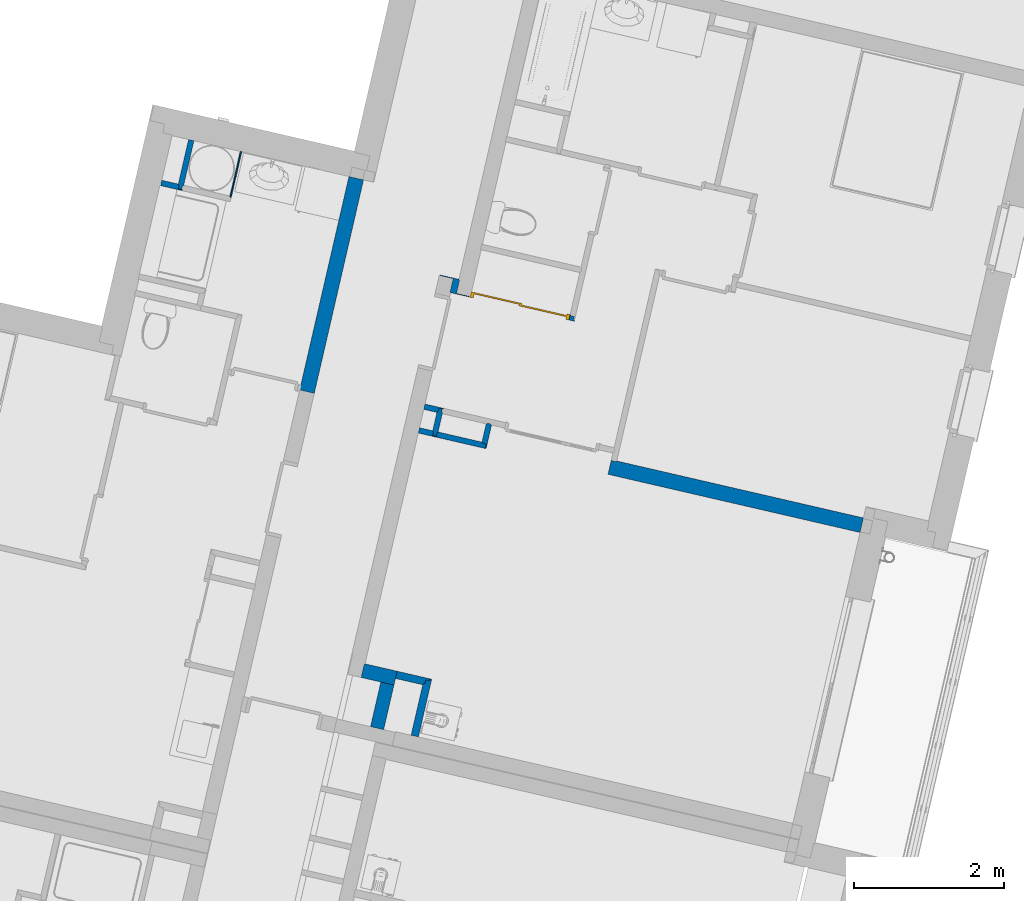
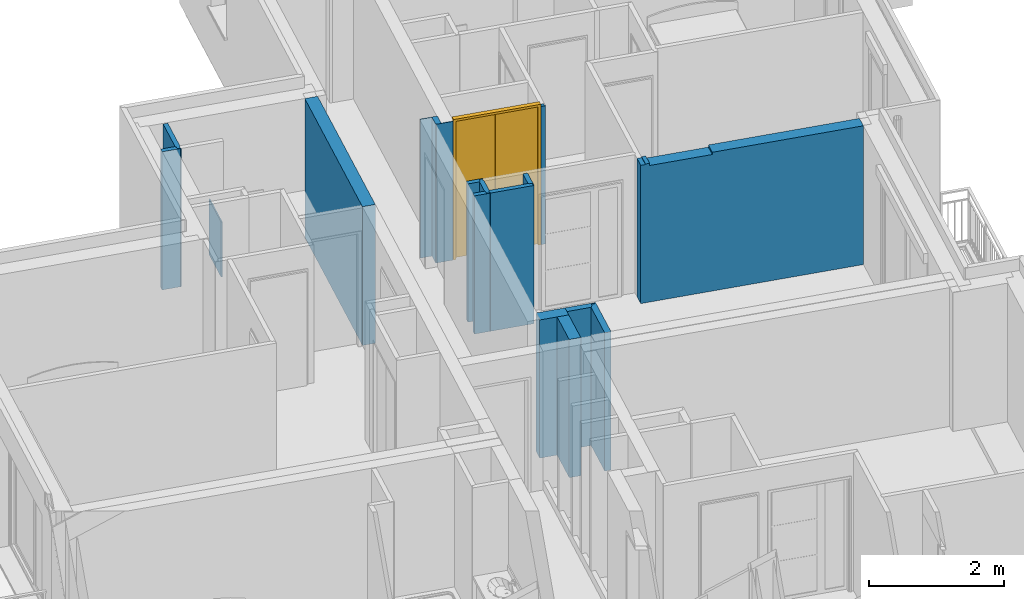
# One storey, part 52 of 90: 16 walls, 1 door, 1 opening.
"""IFC2X3 building model written with IfcOpenShell, lengths in metres."""

from ifc_helpers import new_model, entity, si_unit, converted_unit, derived_unit, money_unit, direction, frame, origin_with_axes, place, context, subcontext, project, spatial, faceted_brep, material, material_list, type_object, element, fill, save


model = new_model("IFC2X3")

# Units and contexts
model_context = context("Model", 3, precision=1e-05, world=origin_with_axes(), true_north=direction((0.0, 1.0)))
body_context = subcontext(model_context, "Body", "Model", "MODEL_VIEW")
ifc_project = project(units=[si_unit("LENGTHUNIT", "METRE"), si_unit("AREAUNIT", "SQUARE_METRE"), si_unit("VOLUMEUNIT", "CUBIC_METRE"), converted_unit("PLANEANGLEUNIT", "DEGREE", entity("IfcPlaneAngleMeasure", 0.0174532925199), si_unit("PLANEANGLEUNIT", "RADIAN"), dimensions=[0, 0, 0, 0, 0, 0, 0]), si_unit("SOLIDANGLEUNIT", "STERADIAN"), money_unit("EUR"), converted_unit("TIMEUNIT", "Year", entity("IfcTimeMeasure", 31556926.0), si_unit("TIMEUNIT", "SECOND"), dimensions=[0, 0, 1, 0, 0, 0, 0]), si_unit("MASSUNIT", "GRAM", prefix="KILO"), si_unit("THERMODYNAMICTEMPERATUREUNIT", "DEGREE_CELSIUS"), si_unit("LUMINOUSINTENSITYUNIT", "LUMEN"), si_unit("ENERGYUNIT", "JOULE", prefix="MEGA"), derived_unit("THERMALCONDUCTANCEUNIT", [(si_unit("POWERUNIT", "WATT"), 1), (si_unit("LENGTHUNIT", "METRE"), -1), (si_unit("THERMODYNAMICTEMPERATUREUNIT", "KELVIN"), -1)]), derived_unit("SPECIFICHEATCAPACITYUNIT", [(si_unit("ENERGYUNIT", "JOULE"), 1), (si_unit("MASSUNIT", "GRAM", prefix="KILO"), -1), (si_unit("THERMODYNAMICTEMPERATUREUNIT", "KELVIN"), -1)]), derived_unit("MASSDENSITYUNIT", [(si_unit("MASSUNIT", "GRAM", prefix="KILO"), 1), (si_unit("VOLUMEUNIT", "CUBIC_METRE"), -1)])], contexts=[model_context])

# Site, building, storey
site_placement = place(None, origin_with_axes())
site = spatial("IfcSite", under=ifc_project, at=site_placement, Name="Site", CompositionType="ELEMENT")
building_placement = place(site_placement, origin_with_axes())
building = spatial("IfcBuilding", under=site, at=building_placement, Name="Bâtiment", CompositionType="ELEMENT")
storey_placement = place(building_placement, frame((0.0, 0.0, 2.72), z_axis=(0.0, 0.0, 1.0), x_axis=(1.0, 0.0, 0.0)))
storey = spatial("IfcBuildingStorey", under=building, at=storey_placement, Name="R+1", CompositionType="ELEMENT", Elevation=2.72)

# Walls
ifc_material_1 = material(Name="Finition int - Plaque de plâtre")
ifc_material_2 = material(Name="Isolation - Laine de roche")
ifc_material_list_1 = material_list([ifc_material_1, ifc_material_2, ifc_material_1])
wall_type_1 = type_object("IfcWallType", Name="3 - Cloison 72mm Placostil 74", PredefinedType="USERDEFINED")
wall_1_placement = place(storey_placement, frame((-6.44100281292, 7.83599391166, 0.0), z_axis=(0.0, 0.0, 1.0), x_axis=(-0.974387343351, 0.224876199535, 0.0)))
element("IfcWall", 1, at=wall_1_placement, inside=storey, type_object=wall_type_1, material=ifc_material_list_1, Name="Cloison Placostil 72/48", ObjectType="PARTITIONING", context=body_context, shape_type="Brep", body=[
    faceted_brep([(0.0, -0.013, 0.0), (0.673999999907, -0.013, 0.0), (0.673999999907, -0.013, 2.5), (0.0, -0.013, 2.5), (0.0, 0.0, 0.0), (0.673999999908, 0.0, 0.0), (0.673999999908, 0.0, 2.5), (0.0, 0.0, 2.5)], [[[0, 1, 2, 3]], [[4, 5, 1, 0]], [[5, 6, 2, 1]], [[3, 2, 6, 7]], [[0, 3, 7, 4]], [[7, 6, 5, 4]]]),
    faceted_brep([(0.012999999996, -0.061, 0.0), (0.686999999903, -0.061, 0.0), (0.686999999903, -0.061, 2.5), (0.012999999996, -0.061, 2.5), (0.0129999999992, -0.013, 0.0), (0.686999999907, -0.013, 0.0), (0.686999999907, -0.013, 2.5), (0.0129999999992, -0.013, 2.5)], [[[0, 1, 2, 3]], [[4, 5, 1, 0]], [[5, 6, 2, 1]], [[3, 2, 6, 7]], [[0, 3, 7, 4]], [[7, 6, 5, 4]]]),
    faceted_brep([(0.0609999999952, -0.074, 0.0), (0.673999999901, -0.074, 0.0), (0.673999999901, -0.074, 2.5), (0.0609999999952, -0.074, 2.5), (0.060999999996, -0.061, 0.0), (0.673999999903, -0.061, 0.0), (0.673999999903, -0.061, 2.5), (0.060999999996, -0.061, 2.5)], [[[0, 1, 2, 3]], [[4, 5, 1, 0]], [[5, 6, 2, 1]], [[3, 2, 6, 7]], [[0, 3, 7, 4]], [[7, 6, 5, 4]]]),
])
wall_2_placement = place(storey_placement, frame((-6.36814292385, 8.15169541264, 0.0), z_axis=(0.0, 0.0, 1.0), x_axis=(-0.224876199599, -0.974387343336, 0.0)))
element("IfcWall", 2, at=wall_2_placement, inside=storey, type_object=wall_type_1, material=ifc_material_list_1, Name="Cloison Placostil 72/48", ObjectType="PARTITIONING", context=body_context, shape_type="Brep", body=[
    faceted_brep([(0.311000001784, -0.013, 2.5), (0.311000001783, 0.0, 2.5), (1.69246483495e-09, 0.0, 2.5), (1.68892100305e-09, -0.013, 2.5), (0.311000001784, -0.013, 0.0), (0.311000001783, 0.0, 0.0), (1.69246483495e-09, 0.0, 0.0), (1.68892100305e-09, -0.013, 0.0)], [[[0, 1, 2, 3]], [[1, 0, 4, 5]], [[1, 5, 6, 2]], [[7, 3, 2, 6]], [[4, 0, 3, 7]], [[5, 4, 7, 6]]]),
    faceted_brep([(0.263000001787, -0.061, 2.5), (0.263000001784, -0.013, 2.5), (-0.0129999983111, -0.013, 2.5), (-0.0129999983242, -0.061, 2.5), (0.263000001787, -0.061, 0.0), (0.263000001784, -0.013, 0.0), (-0.0129999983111, -0.013, 0.0), (-0.0129999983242, -0.061, 0.0)], [[[0, 1, 2, 3]], [[1, 0, 4, 5]], [[1, 5, 6, 2]], [[7, 3, 2, 6]], [[4, 0, 3, 7]], [[5, 4, 7, 6]]]),
    faceted_brep([(0.250000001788, -0.074, 2.5), (0.250000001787, -0.061, 2.5), (1.67583813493e-09, -0.061, 2.5), (1.67229607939e-09, -0.074, 2.5), (0.250000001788, -0.074, 0.0), (0.250000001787, -0.061, 0.0), (1.67583813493e-09, -0.061, 0.0), (1.67229607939e-09, -0.074, 0.0)], [[[0, 1, 2, 3]], [[1, 0, 4, 5]], [[1, 5, 6, 2]], [[7, 3, 2, 6]], [[4, 0, 3, 7]], [[5, 4, 7, 6]]]),
])

# Wall, opening, door
wall_3_placement = place(storey_placement, frame((-6.65298020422, 9.85626030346, 0.0), z_axis=(0.0, 0.0, 1.0), x_axis=(0.97438734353, -0.224876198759, 0.0)))
wall_3 = element("IfcWall", 3, at=wall_3_placement, inside=storey, type_object=wall_type_1, material=ifc_material_list_1, Name="Cloison Placostil 72/48", ObjectType="PARTITIONING", context=body_context, shape_type="Brep", body=[
    faceted_brep([(1.34999999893, 0.074, 0.0), (1.34999999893, 0.074, 2.5), (1.36299999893, 0.074, 2.5), (1.36299999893, 0.074, 0.0), (1.34999999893, 0.061, 2.5), (1.34999999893, 0.061, 0.0), (1.36299999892, 0.061, 2.5), (1.36299999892, 0.061, 0.0)], [[[0, 1, 2, 3]], [[4, 1, 0, 5]], [[1, 4, 6, 2]], [[3, 2, 6, 7]], [[5, 0, 3, 7]], [[4, 5, 7, 6]]]),
    faceted_brep([(1.34999999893, 0.061, 0.0), (1.34999999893, 0.061, 2.5), (1.41099999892, 0.061, 2.5), (1.41099999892, 0.061, 0.0), (1.34999999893, 0.013, 2.5), (1.34999999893, 0.013, 0.0), (1.41099999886, 0.013, 2.5), (1.41099999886, 0.013, 0.0)], [[[0, 1, 2, 3]], [[4, 1, 0, 5]], [[1, 4, 6, 2]], [[3, 2, 6, 7]], [[5, 0, 3, 7]], [[4, 5, 7, 6]]]),
    faceted_brep([(1.34999999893, 0.013, 0.0), (1.34999999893, 0.013, 2.5), (1.42399999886, 0.013, 2.5), (1.42399999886, 0.013, 0.0), (1.34999999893, 0.0, 2.5), (1.34999999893, 0.0, 0.0), (1.42399999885, 0.0, 2.5), (1.42399999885, 0.0, 0.0)], [[[0, 1, 2, 3]], [[4, 1, 0, 5]], [[1, 4, 6, 2]], [[3, 2, 6, 7]], [[5, 0, 3, 7]], [[4, 5, 7, 6]]]),
])
opening_placement = place(wall_3_placement, frame((0.674999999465, 0.0, 0.0), z_axis=(0.0, 0.0, 1.0), x_axis=(1.0, 0.0, 0.0)))
opening = element("IfcOpeningElement", 4, at=opening_placement, cuts=wall_3, Name="Por-002", context=body_context, shape_type="Brep", body=[
    faceted_brep([(-0.674999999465, 0.074, 0.0), (0.674999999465, 0.074, 0.0), (0.674999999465, -0.074, 0.0), (-0.674999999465, -0.074, 0.0), (-0.674999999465, 0.074, 2.54), (0.674999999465, 0.074, 2.54), (0.674999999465, -0.074, 2.54), (-0.674999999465, -0.074, 2.54)], [[[0, 1, 2, 3]], [[0, 4, 5, 1]], [[1, 5, 6, 2]], [[3, 2, 6, 7]], [[4, 0, 3, 7]], [[5, 4, 7, 6]]]),
])
door_style = type_object("IfcDoorStyle", Name="Porte int générique 2019", ConstructionType="NOTDEFINED", OperationType="USERDEFINED", ParameterTakesPrecedence=False, Sizeable=False)
door_placement = place(opening_placement, frame((-0.634999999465, 0.0, 0.0), z_axis=(0.0, 0.0, 1.0), x_axis=(1.0, 0.0, 0.0)))
door = element("IfcDoor", 5, at=door_placement, inside=storey, type_object=door_style, Name="Por-002", ObjectType="DOOR", OverallHeight=2.5, OverallWidth=1.27, context=body_context, shape_type="Brep", body=[
    faceted_brep([(-0.04, 0.074, 0.0), (-0.04, 0.074, 2.54), (1.30999999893, 0.074, 2.54), (1.30999999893, 0.074, 0.0), (1.26999999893, 0.074, 0.0), (1.26999999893, 0.074, 2.5), (0.0, 0.074, 2.5), (0.0, 0.074, 0.0), (-0.04, 0.0, 0.0), (-0.04, 0.0, 2.54), (1.30999999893, 0.0, 2.54), (1.30999999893, 0.0, 0.0), (1.26999999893, 0.0, 0.0), (1.26999999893, 0.0, 2.5), (0.0, 0.0, 2.5), (0.0, 0.0, 0.0)], [[[0, 1, 2, 3, 4, 5, 6, 7]], [[8, 9, 1, 0]], [[9, 10, 2, 1]], [[10, 11, 3, 2]], [[3, 11, 12, 4]], [[5, 4, 12, 13]], [[6, 5, 13, 14]], [[7, 6, 14, 15]], [[0, 7, 15, 8]], [[15, 14, 13, 12, 11, 10, 9, 8]]]),
    faceted_brep([(0.0, 0.074, 0.0), (0.649999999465, 0.074, 0.0), (0.649999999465, 0.054, 0.0), (0.0, 0.054, 0.0), (0.0, 0.074, 2.5), (0.649999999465, 0.074, 2.5), (0.649999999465, 0.054, 2.5), (0.0, 0.054, 2.5)], [[[0, 1, 2, 3]], [[0, 4, 5, 1]], [[1, 5, 6, 2]], [[3, 2, 6, 7]], [[4, 0, 3, 7]], [[5, 4, 7, 6]]]),
    faceted_brep([(0.619999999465, 0.054, 0.0), (1.26999999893, 0.054, 0.0), (1.26999999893, 0.034, 0.0), (0.619999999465, 0.034, 0.0), (0.619999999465, 0.054, 2.5), (1.26999999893, 0.054, 2.5), (1.26999999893, 0.034, 2.5), (0.619999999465, 0.034, 2.5)], [[[0, 1, 2, 3]], [[0, 4, 5, 1]], [[1, 5, 6, 2]], [[3, 2, 6, 7]], [[4, 0, 3, 7]], [[5, 4, 7, 6]]]),
])
fill(opening, door)

# Walls
ifc_material_3 = material(Name="Finition int - Enduit plâtre")
ifc_material_4 = material(Name="Béton")
ifc_material_list_2 = material_list([ifc_material_3, ifc_material_4, ifc_material_3])
wall_type_2 = type_object("IfcWallType", Name="2 - Murs Béton 18 + Enduit 2 Faces 200", PredefinedType="USERDEFINED")
wall_4_placement = place(storey_placement, frame((-4.7413895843, 7.487875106, 0.0), z_axis=(0.0, 0.0, 1.0), x_axis=(0.974387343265, -0.224876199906, 0.0)))
element("IfcWall", 6, at=wall_4_placement, inside=storey, type_object=wall_type_2, material=ifc_material_list_2, Name="M_Ext-008", ObjectType="SOLIDWALL", context=body_context, shape_type="Brep", body=[
    faceted_brep([(0.0641161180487, 0.189999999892, 2.47), (1.03472502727, 0.189999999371, 2.47), (1.03472502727, 0.189999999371, 2.51), (3.3761913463, 0.19, 2.51), (3.3761913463, 0.19, 0.0), (-1.15635501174e-10, 0.19, 0.0), (-1.15635501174e-10, 0.19, 2.5), (0.0, 0.19, 2.51), (0.0641161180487, 0.189999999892, 2.51), (0.0641161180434, 0.18, 2.47), (1.03472502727, 0.18, 2.47), (1.03472502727, 0.18, 2.51), (3.3761913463, 0.18, 2.51), (3.3761913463, 0.18, 0.0), (-1.09549702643e-10, 0.18, 0.0), (-1.09549702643e-10, 0.18, 2.5), (0.0, 0.18, 2.51), (0.0641161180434, 0.18, 2.51)], [[[0, 1, 2, 3, 4, 5, 6, 7, 8]], [[1, 0, 9, 10]], [[11, 2, 1, 10]], [[2, 11, 12, 3]], [[4, 3, 12, 13]], [[4, 13, 14, 5]], [[5, 14, 15, 6]], [[16, 7, 6, 15]], [[17, 8, 7, 16]], [[0, 8, 17, 9]], [[9, 17, 16, 15, 14, 13, 12, 11, 10]]]),
    faceted_brep([(0.0641161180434, 0.18, 2.47), (1.03472502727, 0.18, 2.47), (1.03472502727, 0.18, 2.51), (3.3761913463, 0.18, 2.51), (3.3761913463, 0.18, 0.0), (-0.0739999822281, 0.18, 0.0), (-0.0739999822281, 0.18, 2.5), (0.0, 0.18, 2.5), (0.0, 0.18, 2.51), (0.0641161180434, 0.18, 2.51), (0.0641161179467, 0.0, 2.47), (1.03472502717, 0.0, 2.47), (1.03472502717, 0.0, 2.51), (3.3761913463, 0.0, 2.51), (3.3761913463, 0.0, 0.0), (-0.0739999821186, 0.0, 0.0), (-0.0739999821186, 0.0, 2.5), (0.0, 0.0, 2.5), (0.0, 0.0, 2.51), (0.0641161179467, 0.0, 2.51)], [[[0, 1, 2, 3, 4, 5, 6, 7, 8, 9]], [[1, 0, 10, 11]], [[12, 2, 1, 11]], [[2, 12, 13, 3]], [[3, 13, 14, 4]], [[4, 14, 15, 5]], [[5, 15, 16, 6]], [[17, 7, 6, 16]], [[7, 17, 18, 8]], [[19, 9, 8, 18]], [[0, 9, 19, 10]], [[10, 19, 18, 17, 16, 15, 14, 13, 12, 11]]]),
    faceted_brep([(0.0641161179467, 0.0, 2.47), (1.03472502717, 0.0, 2.47), (1.03472502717, 0.0, 2.51), (3.3761913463, 0.0, 2.51), (3.3761913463, 0.0, 0.0), (-0.0739999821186, 0.0, 0.0), (-0.0739999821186, 0.0, 2.5), (0.0, 0.0, 2.5), (0.0, 0.0, 2.51), (0.0641161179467, 0.0, 2.51), (0.0641161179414, -0.0100000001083, 2.47), (1.03472502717, -0.0100000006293, 2.47), (1.03472502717, -0.0100000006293, 2.51), (3.3761913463, -0.01, 2.51), (3.3761913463, -0.01, 0.0), (-0.0739999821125, -0.01, 0.0), (-0.0739999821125, -0.01, 2.5), (0.0, -0.01, 2.5), (0.0, -0.01, 2.51), (0.0641161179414, -0.0100000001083, 2.51)], [[[0, 1, 2, 3, 4, 5, 6, 7, 8, 9]], [[1, 0, 10, 11]], [[12, 2, 1, 11]], [[2, 12, 13, 3]], [[3, 13, 14, 4]], [[4, 14, 15, 5]], [[5, 15, 16, 6]], [[17, 7, 6, 16]], [[7, 17, 18, 8]], [[19, 9, 8, 18]], [[0, 9, 19, 10]], [[10, 19, 18, 17, 16, 15, 14, 13, 12, 11]]]),
])
wall_5_placement = place(storey_placement, frame((-8.26065722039, 11.464555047, 0.0), z_axis=(0.0, 0.0, 1.0), x_axis=(-0.224876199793, -0.974387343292, 0.0)))
element("IfcWall", 7, at=wall_5_placement, inside=storey, type_object=wall_type_2, material=ifc_material_list_2, Name="M_Ext-009", ObjectType="SOLIDWALL", context=body_context, shape_type="Brep", body=[
    faceted_brep([(0.0, 0.19, 0.0), (2.92159790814, 0.19, 0.0), (2.92159790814, 0.18, 0.0), (0.0, 0.18, 0.0), (0.0, 0.19, 2.51), (2.92159790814, 0.19, 2.51), (2.92159790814, 0.18, 2.51), (0.0, 0.18, 2.51)], [[[0, 1, 2, 3]], [[4, 5, 1, 0]], [[2, 1, 5, 6]], [[3, 2, 6, 7]], [[4, 0, 3, 7]], [[7, 6, 5, 4]]]),
    faceted_brep([(0.0, 0.18, 0.0), (2.92159790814, 0.18, 0.0), (2.92159790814, 0.0, 0.0), (0.0, 0.0, 0.0), (0.0, 0.18, 2.51), (2.92159790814, 0.18, 2.51), (2.92159790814, 0.0, 2.51), (0.0, 0.0, 2.51)], [[[0, 1, 2, 3]], [[4, 5, 1, 0]], [[2, 1, 5, 6]], [[3, 2, 6, 7]], [[4, 0, 3, 7]], [[7, 6, 5, 4]]]),
    faceted_brep([(0.0, 0.0, 0.0), (2.92159790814, 0.0, 0.0), (2.92159790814, -0.01, 0.0), (0.0, -0.01, 0.0), (0.0, 0.0, 2.51), (2.92159790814, 0.0, 2.51), (2.92159790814, -0.01, 2.51), (0.0, -0.01, 2.51)], [[[0, 1, 2, 3]], [[4, 5, 1, 0]], [[2, 1, 5, 6]], [[3, 2, 6, 7]], [[4, 0, 3, 7]], [[7, 6, 5, 4]]]),
])
wall_6_placement = place(storey_placement, frame((-6.80288243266, 10.0961130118, 0.0), z_axis=(0.0, 0.0, 1.0), x_axis=(-0.974387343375, 0.22487619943, 0.0)))
element("IfcWall", 8, at=wall_6_placement, inside=storey, type_object=wall_type_2, material=ifc_material_list_2, Name="M_Ext-008", ObjectType="SOLIDWALL", context=body_context, shape_type="Brep", body=[
    faceted_brep([(0.0677768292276, 0.19, 2.51), (-0.190142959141, 0.19, 2.51), (-0.190142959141, 0.19, 0.0), (0.0677768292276, 0.19, 0.0), (-0.190150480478, 0.2, 2.51), (0.0677768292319, 0.2, 2.51), (-0.190150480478, 0.2, 0.0), (0.0677768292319, 0.2, 0.0)], [[[0, 1, 2, 3]], [[4, 1, 0, 5]], [[1, 4, 6, 2]], [[6, 7, 3, 2]], [[5, 0, 3, 7]], [[4, 5, 7, 6]]]),
    faceted_brep([(0.0777768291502, 0.01, 2.51), (-0.0100075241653, 0.01, 2.51), (-0.0100075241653, 0.01, 0.0), (0.0777768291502, 0.01, 0.0), (-0.0101429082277, 0.19, 2.51), (0.0777768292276, 0.19, 2.51), (-0.0101429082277, 0.19, 0.0), (0.0777768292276, 0.19, 0.0)], [[[0, 1, 2, 3]], [[4, 1, 0, 5]], [[1, 4, 6, 2]], [[6, 7, 3, 2]], [[5, 0, 3, 7]], [[4, 5, 7, 6]]]),
    faceted_brep([(0.257776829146, 0.0, 2.51), (0.0, 0.0, 2.51), (0.0, 0.0, 0.0), (0.257776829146, 0.0, 0.0), (-7.52133679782e-06, 0.01, 2.51), (0.25777682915, 0.01, 2.51), (-7.52133679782e-06, 0.01, 0.0), (0.25777682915, 0.01, 0.0)], [[[0, 1, 2, 3]], [[4, 1, 0, 5]], [[1, 4, 6, 2]], [[6, 7, 3, 2]], [[5, 0, 3, 7]], [[4, 5, 7, 6]]]),
])
wall_type_3 = type_object("IfcWallType", Name="3 - Cloison Gaine Technique 72mm 74", PredefinedType="USERDEFINED")
wall_7_placement = place(storey_placement, frame((-7.02487999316, 8.30326197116, 0.0), z_axis=(0.0, 0.0, 1.0), x_axis=(-0.224876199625, -0.97438734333, 0.0)))
element("IfcWall", 9, at=wall_7_placement, inside=storey, type_object=wall_type_3, material=ifc_material_list_1, Name="Cloison Placostil 72/48", ObjectType="PARTITIONING", context=body_context, shape_type="Brep", body=[
    faceted_brep([(0.324000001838, 0.0, 0.0), (0.311000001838, 0.0, 0.0), (0.311000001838, 0.0, 2.5), (0.324000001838, 0.0, 2.5), (0.324000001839, -0.013, 0.0), (0.311000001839, -0.013, 0.0), (0.311000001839, -0.013, 2.5), (0.324000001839, -0.013, 2.5)], [[[0, 1, 2, 3]], [[4, 5, 1, 0]], [[5, 6, 2, 1]], [[3, 2, 6, 7]], [[0, 3, 7, 4]], [[7, 6, 5, 4]]]),
    faceted_brep([(0.263000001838, 0.0, 0.0), (-0.0129999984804, 0.0, 0.0), (-0.0129999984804, 0.0, 2.5), (0.263000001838, 0.0, 2.5), (0.263000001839, -0.013, 0.0), (-0.0129999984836, -0.013, 0.0), (-0.0129999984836, -0.013, 2.5), (0.263000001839, -0.013, 2.5)], [[[0, 1, 2, 3]], [[4, 5, 1, 0]], [[5, 6, 2, 1]], [[3, 2, 6, 7]], [[4, 0, 3, 7]], [[7, 6, 5, 4]]]),
    faceted_brep([(-0.0739999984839, -0.013, 2.5), (-0.0609999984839, -0.013, 2.5), (-0.0609999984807, 0.0, 2.5), (-0.0739999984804, 0.0, 2.5), (-0.0739999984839, -0.013, 0.0), (-0.0609999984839, -0.013, 0.0), (-0.0609999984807, 0.0, 0.0), (-0.0739999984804, 0.0, 0.0)], [[[0, 1, 2, 3]], [[4, 5, 1, 0]], [[5, 6, 2, 1]], [[3, 2, 6, 7]], [[7, 4, 0, 3]], [[7, 6, 5, 4]]]),
    faceted_brep([(-0.0609999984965, -0.061, 2.5), (0.311000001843, -0.061, 2.5), (0.311000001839, -0.013, 2.5), (-0.0609999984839, -0.013, 2.5), (-0.0609999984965, -0.061, 0.0), (0.311000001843, -0.061, 0.0), (0.311000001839, -0.013, 0.0), (-0.0609999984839, -0.013, 0.0)], [[[0, 1, 2, 3]], [[4, 5, 1, 0]], [[6, 2, 1, 5]], [[3, 2, 6, 7]], [[7, 4, 0, 3]], [[7, 6, 5, 4]]]),
    faceted_brep([(-0.0129999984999, -0.074, 2.5), (0.263000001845, -0.074, 2.5), (0.263000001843, -0.061, 2.5), (-0.0129999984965, -0.061, 2.5), (-0.0129999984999, -0.074, 0.0), (0.263000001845, -0.074, 0.0), (0.263000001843, -0.061, 0.0), (-0.0129999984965, -0.061, 0.0)], [[[0, 1, 2, 3]], [[4, 5, 1, 0]], [[6, 2, 1, 5]], [[3, 2, 6, 7]], [[7, 4, 0, 3]], [[7, 6, 5, 4]]]),
])
wall_8_placement = place(storey_placement, frame((-7.27299286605, 8.36052326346, 0.0), z_axis=(0.0, 0.0, 1.0), x_axis=(0.974387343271, -0.224876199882, 0.0)))
element("IfcWall", 10, at=wall_8_placement, inside=storey, type_object=wall_type_3, material=ifc_material_list_1, Name="Cloison Placostil 72/48", ObjectType="PARTITIONING", context=body_context, shape_type="Brep", body=[
    faceted_brep([(0.0, 0.074, 0.0), (0.241634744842, 0.074, 0.0), (0.241634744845, 0.061, 0.0), (0.0, 0.061, 0.0), (0.0, 0.074, 2.5), (0.241634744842, 0.074, 2.5), (0.241634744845, 0.061, 2.5), (0.0, 0.061, 2.5)], [[[0, 1, 2, 3]], [[4, 5, 1, 0]], [[6, 2, 1, 5]], [[3, 2, 6, 7]], [[7, 4, 0, 3]], [[7, 6, 5, 4]]]),
    faceted_brep([(0.193634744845, 0.061, 0.0), (0.193634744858, 0.013, 0.0), (0.0, 0.013, 0.0), (0.0, 0.061, 0.0), (0.193634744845, 0.061, 2.5), (0.193634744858, 0.013, 2.5), (0.0, 0.013, 2.5), (0.0, 0.061, 2.5)], [[[0, 1, 2, 3]], [[1, 0, 4, 5]], [[1, 5, 6, 2]], [[7, 3, 2, 6]], [[4, 0, 3, 7]], [[5, 4, 7, 6]]]),
    faceted_brep([(0.180634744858, 0.013, 0.0), (0.180634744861, 0.0, 0.0), (0.0, 0.0, 0.0), (0.0, 0.013, 0.0), (0.180634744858, 0.013, 2.5), (0.180634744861, 0.0, 2.5), (0.0, 0.0, 2.5), (0.0, 0.013, 2.5)], [[[0, 1, 2, 3]], [[1, 0, 4, 5]], [[1, 5, 6, 2]], [[7, 3, 2, 6]], [[4, 0, 3, 7]], [[5, 4, 7, 6]]]),
])
wall_9_placement = place(storey_placement, frame((-7.09773988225, 7.98756047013, 0.0), z_axis=(0.0, 0.0, 1.0), x_axis=(-0.974387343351, 0.224876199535, 0.0)))
element("IfcWall", 11, at=wall_9_placement, inside=storey, type_object=wall_type_3, material=ifc_material_list_1, Name="Cloison Placostil 72/48", ObjectType="PARTITIONING", context=body_context, shape_type="Brep", body=[
    faceted_brep([(0.013, 0.0, 2.5), (0.0129999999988, -0.013, 2.5), (0.254634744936, -0.013, 2.5), (0.254634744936, 0.0, 2.5), (0.013, 0.0, 0.0), (0.0129999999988, -0.013, 0.0), (0.254634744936, -0.013, 0.0), (0.254634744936, 0.0, 0.0)], [[[0, 1, 2, 3]], [[4, 5, 1, 0]], [[1, 5, 6, 2]], [[7, 3, 2, 6]], [[4, 0, 3, 7]], [[5, 4, 7, 6]]]),
    faceted_brep([(0.0609999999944, -0.061, 2.5), (0.254634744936, -0.061, 2.5), (0.254634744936, -0.013, 2.5), (0.0609999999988, -0.013, 2.5), (0.0609999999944, -0.061, 0.0), (0.254634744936, -0.061, 0.0), (0.254634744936, -0.013, 0.0), (0.0609999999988, -0.013, 0.0)], [[[0, 1, 2, 3]], [[4, 5, 1, 0]], [[2, 1, 5, 6]], [[3, 2, 6, 7]], [[4, 0, 3, 7]], [[7, 6, 5, 4]]]),
    faceted_brep([(0.0739999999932, -0.074, 2.5), (0.254634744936, -0.074, 2.5), (0.254634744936, -0.061, 2.5), (0.0739999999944, -0.061, 2.5), (0.0739999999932, -0.074, 0.0), (0.254634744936, -0.074, 0.0), (0.254634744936, -0.061, 0.0), (0.0739999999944, -0.061, 0.0)], [[[0, 1, 2, 3]], [[4, 5, 1, 0]], [[2, 1, 5, 6]], [[3, 2, 6, 7]], [[4, 0, 3, 7]], [[7, 6, 5, 4]]]),
])
wall_10_placement = place(storey_placement, frame((-10.4911943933, 11.2773550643, 0.0), z_axis=(0.0, 0.0, 1.0), x_axis=(-0.974387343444, 0.224876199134, 0.0)))
element("IfcWall", 12, at=wall_10_placement, inside=storey, type_object=wall_type_3, material=ifc_material_list_1, Name="Cloison Placostil 72/48", ObjectType="PARTITIONING", context=body_context, shape_type="Brep", body=[
    faceted_brep([(0.013, 0.0, 2.5), (0.0129999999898, -0.013, 2.5), (0.299000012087, -0.013, 2.5), (0.299000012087, 0.0, 2.5), (0.013, 0.0, 0.0), (0.0129999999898, -0.013, 0.0), (0.299000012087, -0.013, 0.0), (0.299000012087, 0.0, 0.0)], [[[0, 1, 2, 3]], [[4, 5, 1, 0]], [[1, 5, 6, 2]], [[7, 3, 2, 6]], [[4, 0, 3, 7]], [[5, 4, 7, 6]]]),
    faceted_brep([(0.0609999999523, -0.061, 2.5), (0.299000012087, -0.061, 2.5), (0.299000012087, -0.013, 2.5), (0.0609999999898, -0.013, 2.5), (0.0609999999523, -0.061, 0.0), (0.299000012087, -0.061, 0.0), (0.299000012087, -0.013, 0.0), (0.0609999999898, -0.013, 0.0)], [[[0, 1, 2, 3]], [[4, 5, 1, 0]], [[2, 1, 5, 6]], [[3, 2, 6, 7]], [[4, 0, 3, 7]], [[7, 6, 5, 4]]]),
    faceted_brep([(0.0739999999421, -0.074, 2.5), (0.299000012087, -0.074, 2.5), (0.299000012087, -0.061, 2.5), (0.0739999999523, -0.061, 2.5), (0.0739999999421, -0.074, 0.0), (0.299000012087, -0.074, 0.0), (0.299000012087, -0.061, 0.0), (0.0739999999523, -0.061, 0.0)], [[[0, 1, 2, 3]], [[4, 5, 1, 0]], [[2, 1, 5, 6]], [[3, 2, 6, 7]], [[4, 0, 3, 7]], [[7, 6, 5, 4]]]),
])
wall_11_placement = place(storey_placement, frame((-10.3373790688, 11.9438360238, 0.0), z_axis=(0.0, 0.0, 1.0), x_axis=(-0.224876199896, -0.974387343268, 0.0)))
element("IfcWall", 13, at=wall_11_placement, inside=storey, type_object=wall_type_3, material=ifc_material_list_1, Name="Cloison Placostil 72/48", ObjectType="PARTITIONING", context=body_context, shape_type="Brep", body=[
    faceted_brep([(0.684000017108, 0.0, 0.0), (0.671000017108, 0.0, 0.0), (0.671000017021, 0.0, 2.5), (0.684000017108, 0.0, 2.5), (0.684000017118, -0.013, 0.0), (0.671000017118, -0.013, 0.0), (0.671000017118, -0.013, 2.5), (0.684000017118, -0.013, 2.5)], [[[0, 1, 2, 3]], [[4, 5, 1, 0]], [[5, 6, 2, 1]], [[3, 2, 6, 7]], [[0, 3, 7, 4]], [[7, 6, 5, 4]]]),
    faceted_brep([(0.0, -0.013, 2.5), (0.623000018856, -0.013, 2.5), (0.623000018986, 0.0, 2.5), (0.0, 0.0, 2.5), (0.0, -0.013, 0.0), (0.623000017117, -0.013, 0.0), (0.623000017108, 0.0, 0.0), (0.0, 0.0, 0.0)], [[[0, 1, 2, 3]], [[4, 5, 1, 0]], [[5, 6, 2, 1]], [[3, 2, 6, 7]], [[7, 4, 0, 3]], [[7, 6, 5, 4]]]),
    faceted_brep([(0.0, -0.061, 2.5), (0.671000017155, -0.061, 2.5), (0.671000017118, -0.013, 2.5), (0.0, -0.013, 2.5), (0.0, -0.061, 0.0), (0.671000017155, -0.061, 0.0), (0.671000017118, -0.013, 0.0), (0.0, -0.013, 0.0)], [[[0, 1, 2, 3]], [[4, 5, 1, 0]], [[6, 2, 1, 5]], [[3, 2, 6, 7]], [[7, 4, 0, 3]], [[7, 6, 5, 4]]]),
    faceted_brep([(0.623000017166, -0.074, 2.5), (0.623000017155, -0.061, 2.5), (0.0, -0.061, 2.5), (0.0, -0.074, 2.5), (0.623000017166, -0.074, 0.0), (0.623000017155, -0.061, 0.0), (0.0, -0.061, 0.0), (0.0, -0.074, 0.0)], [[[0, 1, 2, 3]], [[1, 0, 4, 5]], [[1, 5, 6, 2]], [[7, 3, 2, 6]], [[4, 0, 3, 7]], [[5, 4, 7, 6]]]),
])
ifc_material_list_3 = material_list([ifc_material_4, ifc_material_3])
wall_type_4 = type_object("IfcWallType", Name="2 - Murs Béton 18 + Enduit 1 Face 190", PredefinedType="USERDEFINED")
wall_12_placement = place(storey_placement, frame((-7.6699008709, 4.68409091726, 0.0), z_axis=(0.0, 0.0, 1.0), x_axis=(-0.974387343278, 0.224876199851, 0.0)))
element("IfcWall", 14, at=wall_12_placement, inside=storey, type_object=wall_type_4, material=ifc_material_list_3, Name="M_Ext-008", ObjectType="SOLIDWALL", context=body_context, shape_type="Brep", body=[
    faceted_brep([(0.0, -0.18, 0.0), (0.449999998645, -0.18, 0.0), (0.449999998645, -0.18, 2.5), (0.0, -0.18, 2.5), (0.0, 0.0, 0.0), (0.449999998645, 0.0, 0.0), (0.449999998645, 4.47035386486e-09, 2.5), (0.0, 0.0, 2.5)], [[[0, 1, 2, 3]], [[4, 5, 1, 0]], [[2, 1, 5, 6]], [[3, 2, 6, 7]], [[4, 0, 3, 7]], [[6, 5, 4, 7]]]),
    faceted_brep([(0.0, -0.19, 0.0), (0.439999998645, -0.19, 0.0), (0.439999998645, -0.19, 2.5), (0.0, -0.19, 2.5), (0.0, -0.18, 0.0), (0.439999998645, -0.18, 0.0), (0.439999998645, -0.18, 2.5), (0.0, -0.18, 2.5)], [[[0, 1, 2, 3]], [[4, 5, 1, 0]], [[2, 1, 5, 6]], [[3, 2, 6, 7]], [[4, 0, 3, 7]], [[6, 5, 4, 7]]]),
])
wall_type_5 = type_object("IfcWallType", Name="Béton 180", PredefinedType="USERDEFINED")
wall_13_placement = place(storey_placement, frame((-7.6699008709, 4.68409091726, 0.0), z_axis=(0.0, 0.0, 1.0), x_axis=(-0.224876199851, -0.974387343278, 0.0)))
element("IfcWall", 15, at=wall_13_placement, inside=storey, type_object=wall_type_5, material=ifc_material_4, Name="M_Ext-009", ObjectType="SOLIDWALL", context=body_context, shape_type="Brep", body=[
    faceted_brep([(0.0, 0.0, 2.5), (0.0, -0.18, 2.5), (0.610475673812, -0.18, 2.5), (0.610475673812, 0.0, 2.5), (0.0, 0.0, 0.0), (0.0, -0.18, 0.0), (0.610475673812, -0.18, 0.0), (0.610475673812, 0.0, 0.0)], [[[0, 1, 2, 3]], [[4, 5, 1, 0]], [[1, 5, 6, 2]], [[7, 3, 2, 6]], [[4, 0, 3, 7]], [[5, 4, 7, 6]]]),
])
ifc_material_list_4 = material_list([ifc_material_1, ifc_material_1, ifc_material_2, ifc_material_1, ifc_material_1])
wall_type_6 = type_object("IfcWallType", Name="3 - Cloison Gaine Technique 98mm 100", PredefinedType="USERDEFINED")
wall_14_placement = place(storey_placement, frame((-7.16628917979, 4.76285806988, 0.0), z_axis=(0.0, 0.0, 1.0), x_axis=(-0.224876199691, -0.974387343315, 0.0)))
element("IfcWall", 16, at=wall_14_placement, inside=storey, type_object=wall_type_6, material=ifc_material_list_4, Name="Cloison 98 isolée", ObjectType="PARTITIONING", context=body_context, shape_type="Brep", body=[
    faceted_brep([(0.0, -0.013, 2.5), (0.790475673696, -0.013, 2.5), (0.790475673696, 0.0, 2.5), (0.0, 0.0, 2.5), (0.0, -0.013, 0.0), (0.790475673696, -0.013, 0.0), (0.790475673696, 0.0, 0.0), (0.0, 0.0, 0.0)], [[[0, 1, 2, 3]], [[4, 5, 1, 0]], [[2, 1, 5, 6]], [[3, 2, 6, 7]], [[4, 0, 3, 7]], [[7, 6, 5, 4]]]),
    faceted_brep([(0.0129999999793, -0.026, 2.5), (0.790475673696, -0.026, 2.5), (0.790475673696, -0.013, 2.5), (0.0129999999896, -0.013, 2.5), (0.0129999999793, -0.026, 0.0), (0.790475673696, -0.026, 0.0), (0.790475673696, -0.013, 0.0), (0.0129999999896, -0.013, 0.0)], [[[0, 1, 2, 3]], [[4, 5, 1, 0]], [[2, 1, 5, 6]], [[3, 2, 6, 7]], [[4, 0, 3, 7]], [[7, 6, 5, 4]]]),
    faceted_brep([(0.025999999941, -0.074, 2.5), (0.790475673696, -0.074, 2.5), (0.790475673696, -0.026, 2.5), (0.0259999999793, -0.026, 2.5), (0.025999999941, -0.074, 0.0), (0.790475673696, -0.074, 0.0), (0.790475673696, -0.026, 0.0), (0.0259999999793, -0.026, 0.0)], [[[0, 1, 2, 3]], [[4, 5, 1, 0]], [[2, 1, 5, 6]], [[3, 2, 6, 7]], [[4, 0, 3, 7]], [[7, 6, 5, 4]]]),
    faceted_brep([(0.0739999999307, -0.087, 2.5), (0.790475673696, -0.087, 2.5), (0.790475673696, -0.074, 2.5), (0.073999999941, -0.074, 2.5), (0.0739999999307, -0.087, 0.0), (0.790475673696, -0.087, 0.0), (0.790475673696, -0.074, 0.0), (0.073999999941, -0.074, 0.0)], [[[0, 1, 2, 3]], [[4, 5, 1, 0]], [[2, 1, 5, 6]], [[3, 2, 6, 7]], [[4, 0, 3, 7]], [[7, 6, 5, 4]]]),
    faceted_brep([(0.0869999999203, -0.1, 2.5), (0.790475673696, -0.1, 2.5), (0.790475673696, -0.087, 2.5), (0.0869999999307, -0.087, 2.5), (0.0869999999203, -0.1, 0.0), (0.790475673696, -0.1, 0.0), (0.790475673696, -0.087, 0.0), (0.0869999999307, -0.087, 0.0)], [[[0, 1, 2, 3]], [[4, 5, 1, 0]], [[2, 1, 5, 6]], [[3, 2, 6, 7]], [[4, 0, 3, 7]], [[7, 6, 5, 4]]]),
])
wall_15_placement = place(storey_placement, frame((-7.62717439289, 4.86922451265, 0.0), z_axis=(0.0, 0.0, 1.0), x_axis=(0.974387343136, -0.224876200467, 0.0)))
element("IfcWall", 17, at=wall_15_placement, inside=storey, type_object=wall_type_6, material=ifc_material_list_4, Name="Cloison 98 isolée", ObjectType="PARTITIONING", context=body_context, shape_type="Brep", body=[
    faceted_brep([(0.459999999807, -0.013, 2.5), (0.459999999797, 0.0, 2.5), (0.0, 0.0, 2.5), (0.0, -0.013, 2.5), (0.459999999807, -0.013, 0.0), (0.459999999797, 0.0, 0.0), (0.0, 0.0, 0.0), (0.0, -0.013, 0.0)], [[[0, 1, 2, 3]], [[1, 0, 4, 5]], [[1, 5, 6, 2]], [[7, 3, 2, 6]], [[4, 0, 3, 7]], [[5, 4, 7, 6]]]),
    faceted_brep([(0.446999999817, -0.026, 2.5), (0.446999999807, -0.013, 2.5), (0.0, -0.013, 2.5), (0.0, -0.026, 2.5), (0.446999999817, -0.026, 0.0), (0.446999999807, -0.013, 0.0), (0.0, -0.013, 0.0), (0.0, -0.026, 0.0)], [[[0, 1, 2, 3]], [[1, 0, 4, 5]], [[1, 5, 6, 2]], [[7, 3, 2, 6]], [[4, 0, 3, 7]], [[5, 4, 7, 6]]]),
    faceted_brep([(0.398999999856, -0.074, 2.5), (0.398999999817, -0.026, 2.5), (0.0, -0.026, 2.5), (0.0, -0.074, 2.5), (0.398999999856, -0.074, 0.0), (0.398999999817, -0.026, 0.0), (0.0, -0.026, 0.0), (0.0, -0.074, 0.0)], [[[0, 1, 2, 3]], [[1, 0, 4, 5]], [[1, 5, 6, 2]], [[7, 3, 2, 6]], [[4, 0, 3, 7]], [[5, 4, 7, 6]]]),
    faceted_brep([(0.385999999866, -0.087, 2.5), (0.385999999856, -0.074, 2.5), (0.0, -0.074, 2.5), (0.0, -0.087, 2.5), (0.385999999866, -0.087, 0.0), (0.385999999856, -0.074, 0.0), (0.0, -0.074, 0.0), (0.0, -0.087, 0.0)], [[[0, 1, 2, 3]], [[1, 0, 4, 5]], [[1, 5, 6, 2]], [[7, 3, 2, 6]], [[4, 0, 3, 7]], [[5, 4, 7, 6]]]),
    faceted_brep([(0.372999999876, -0.1, 2.5), (0.372999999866, -0.087, 2.5), (0.0, -0.087, 2.5), (0.0, -0.1, 2.5), (0.372999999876, -0.1, 0.0), (0.372999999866, -0.087, 0.0), (0.0, -0.087, 0.0), (0.0, -0.1, 0.0)], [[[0, 1, 2, 3]], [[1, 0, 4, 5]], [[1, 5, 6, 2]], [[7, 3, 2, 6]], [[4, 0, 3, 7]], [[5, 4, 7, 6]]]),
])
ifc_material_5 = material(Name="Bois - Mélaminé blanc")
wall_type_7 = type_object("IfcWallType", Name="Bois - Mélaminé blanc 20", PredefinedType="USERDEFINED")
wall_16_placement = place(storey_placement, frame((-9.85394506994, 11.1302860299, 0.0), z_axis=(0.0, 0.0, 1.0), x_axis=(0.224876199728, 0.974387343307, 0.0)))
element("IfcWall", 18, at=wall_16_placement, inside=storey, type_object=wall_type_7, material=ifc_material_5, Name="Panneaux 20mm mélaminé blanc", ObjectType="PARTITIONING", context=body_context, shape_type="Brep", body=[
    faceted_brep([(0.061, 0.0, 0.0), (0.0609999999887, 0.02, 0.0), (0.684000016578, 0.02, 0.0), (0.684000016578, 0.0, 0.0), (0.061, 0.0, 1.0), (0.0609999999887, 0.02, 1.0), (0.684000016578, 0.02, 1.0), (0.684000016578, 0.0, 1.0)], [[[0, 1, 2, 3]], [[4, 5, 1, 0]], [[1, 5, 6, 2]], [[7, 3, 2, 6]], [[4, 0, 3, 7]], [[5, 4, 7, 6]]]),
])

save(model, "model.ifc")
